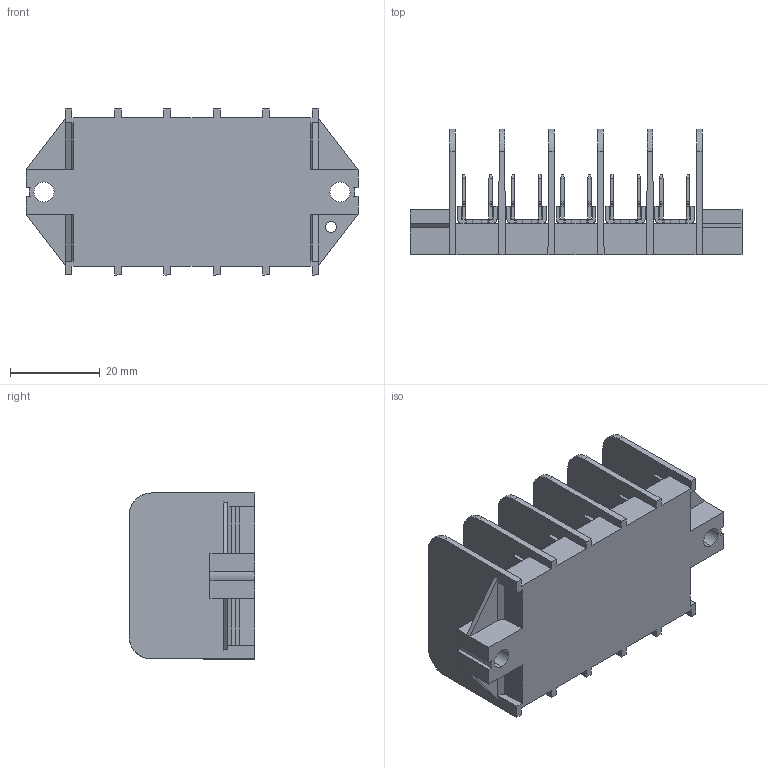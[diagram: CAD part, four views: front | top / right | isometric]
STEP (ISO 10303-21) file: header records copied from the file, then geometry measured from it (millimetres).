
FILE_DESCRIPTION (( 'STEP AP203' ), '1' );
FILE_NAME ('308-PA-102-05.STEP', '2018-05-23T21:33:35', ( '' ), ( '' ), 'SwSTEP 2.0', 'SolidWorks 2016', '' );
FILE_SCHEMA (( 'CONFIG_CONTROL_DESIGN' ));
Length unit declared in the file: millimetre
Products named in the file (1): 308-PA-102-05
Bounding box: 74 x 28 x 37 mm (x, y, z)
Volume: 22226.8 mm3; surface area: 20711.8 mm2
Topology: 1 solids, 1 shells, 1339 faces, 3814 edges, 2452 vertices
Faces by surface type: plane 879, cylinder 450, bspline 10
Entity records: 44737 total; most frequent: CARTESIAN_POINT 9688, ORIENTED_EDGE 7628, DIRECTION 6916, EDGE_CURVE 3814, VECTOR 2884, LINE 2884, VERTEX_POINT 2452, AXIS2_PLACEMENT_3D 2016
